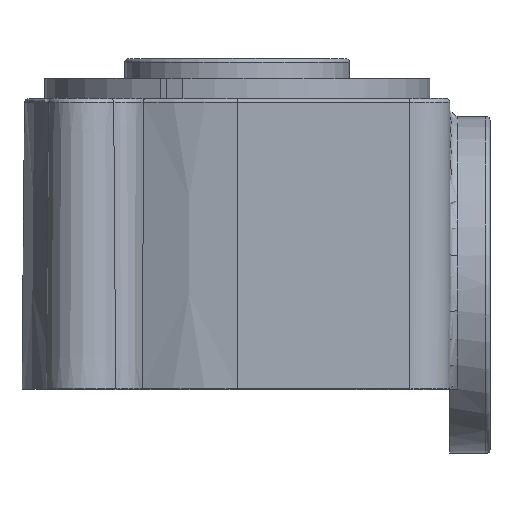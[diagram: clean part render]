
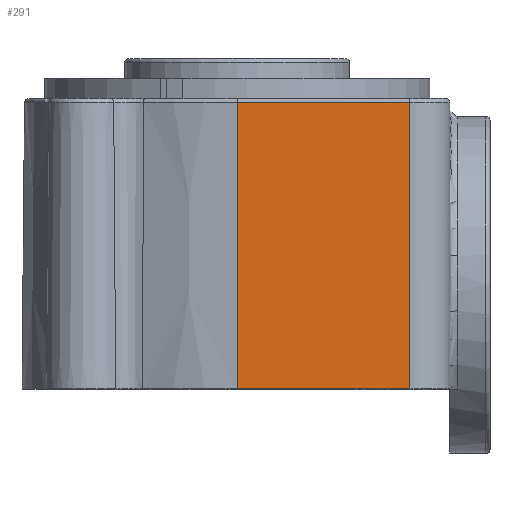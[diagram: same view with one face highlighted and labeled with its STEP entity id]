
A CAD part, top view. The second image highlights one B-rep face of the part: STEP entity #291.
In plain terms, the highlighted planar face has unit normal (0, 0.009, 1).
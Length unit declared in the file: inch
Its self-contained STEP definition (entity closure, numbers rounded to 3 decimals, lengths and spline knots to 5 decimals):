
#291 = ADVANCED_FACE ( 'NONE', ( #2289 ), #5230, .T. ) ;
#320 = CARTESIAN_POINT ( 'NONE',  ( -0.08317, 1.4252, 1.04331 ) ) ;
#532 = ORIENTED_EDGE ( 'NONE', *, *, #4164, .F. ) ;
#579 = CARTESIAN_POINT ( 'NONE',  ( 0., 0., 1.05574 ) ) ;
#648 = CARTESIAN_POINT ( 'NONE',  ( 0., 1.40568, 1.04348 ) ) ;
#680 = LINE ( 'NONE', #648, #4420 ) ;
#795 = LINE ( 'NONE', #4679, #3171 ) ;
#1562 = VERTEX_POINT ( 'NONE', #1985 ) ;
#1601 = DIRECTION ( 'NONE',  ( 0., 1., -0.009 ) ) ;
#1808 = EDGE_CURVE ( 'NONE', #3229, #5412, #795, .T. ) ;
#1985 = CARTESIAN_POINT ( 'NONE',  ( 0., 0., 1.05574 ) ) ;
#2261 = DIRECTION ( 'NONE',  ( 1., 0., 0. ) ) ;
#2289 = FACE_OUTER_BOUND ( 'NONE', #2648, .T. ) ;
#2323 = DIRECTION ( 'NONE',  ( 0., -1., 0.009 ) ) ;
#2513 = EDGE_CURVE ( 'NONE', #4447, #3229, #680, .T. ) ;
#2648 = EDGE_LOOP ( 'NONE', ( #532, #5465, #3975, #5189 ) ) ;
#2953 = EDGE_CURVE ( 'NONE', #1562, #5412, #3706, .T. ) ;
#3122 = VECTOR ( 'NONE', #2261, 39.37008 ) ;
#3171 = VECTOR ( 'NONE', #2323, 39.37008 ) ;
#3229 = VERTEX_POINT ( 'NONE', #3797 ) ;
#3325 = DIRECTION ( 'NONE',  ( 0., 0.009, 1. ) ) ;
#3706 = LINE ( 'NONE', #5683, #3122 ) ;
#3797 = CARTESIAN_POINT ( 'NONE',  ( 0.84646, 1.40568, 1.04348 ) ) ;
#3934 = CARTESIAN_POINT ( 'NONE',  ( 0.84646, 0., 1.05574 ) ) ;
#3975 = ORIENTED_EDGE ( 'NONE', *, *, #1808, .F. ) ;
#4164 = EDGE_CURVE ( 'NONE', #1562, #4447, #6007, .T. ) ;
#4209 = DIRECTION ( 'NONE',  ( 1., 0., 0. ) ) ;
#4420 = VECTOR ( 'NONE', #4209, 39.37008 ) ;
#4447 = VERTEX_POINT ( 'NONE', #5290 ) ;
#4679 = CARTESIAN_POINT ( 'NONE',  ( 0.84646, 1.40568, 1.04348 ) ) ;
#5189 = ORIENTED_EDGE ( 'NONE', *, *, #2513, .F. ) ;
#5230 = PLANE ( 'NONE',  #5969 ) ;
#5290 = CARTESIAN_POINT ( 'NONE',  ( 0., 1.40568, 1.04348 ) ) ;
#5412 = VERTEX_POINT ( 'NONE', #3934 ) ;
#5465 = ORIENTED_EDGE ( 'NONE', *, *, #2953, .T. ) ;
#5682 = DIRECTION ( 'NONE',  ( 1., 0., 0. ) ) ;
#5683 = CARTESIAN_POINT ( 'NONE',  ( 0., 0., 1.05574 ) ) ;
#5969 = AXIS2_PLACEMENT_3D ( 'NONE', #320, #3325, #5682 ) ;
#6007 = LINE ( 'NONE', #579, #6107 ) ;
#6107 = VECTOR ( 'NONE', #1601, 39.37008 ) ;
